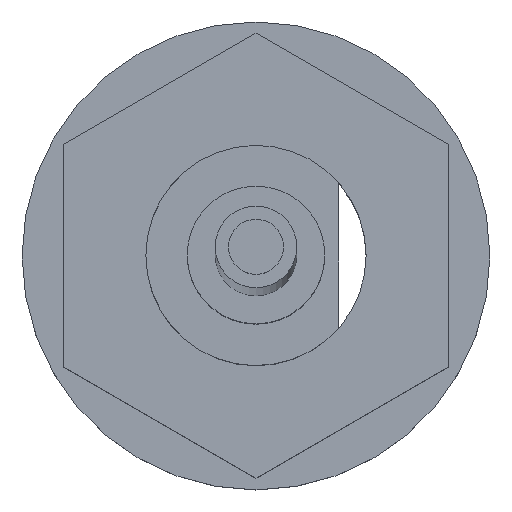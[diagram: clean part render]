
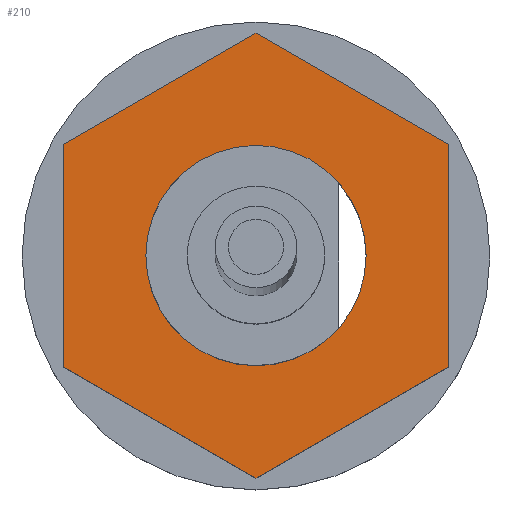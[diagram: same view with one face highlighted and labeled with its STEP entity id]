
A CAD part, top view. The second image highlights one B-rep face of the part: STEP entity #210.
In plain terms, the highlighted planar face has unit normal (0, 0, 1) as drawn and (-1, 0, 0) by its records, which use the part's own axes.
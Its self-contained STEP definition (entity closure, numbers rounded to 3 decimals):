
#199 = EDGE_CURVE ( 'NONE', #200, #201, #673, .T. ) ;
#200 = VERTEX_POINT ( 'NONE', #669 ) ;
#201 = VERTEX_POINT ( 'NONE', #668 ) ;
#210 = ADVANCED_FACE ( 'NONE', ( #716, #715 ), #714, .T. ) ;
#211 = EDGE_LOOP ( 'NONE', ( #212, #307, #293, #295, #218, #221 ) ) ;
#212 = ORIENTED_EDGE ( 'NONE', *, *, #213, .T. ) ;
#213 = EDGE_CURVE ( 'NONE', #214, #215, #709, .T. ) ;
#214 = VERTEX_POINT ( 'NONE', #705 ) ;
#215 = VERTEX_POINT ( 'NONE', #704 ) ;
#217 = EDGE_CURVE ( 'NONE', #310, #308, #703, .T. ) ;
#218 = ORIENTED_EDGE ( 'NONE', *, *, #219, .T. ) ;
#219 = EDGE_CURVE ( 'NONE', #308, #220, #699, .T. ) ;
#220 = VERTEX_POINT ( 'NONE', #695 ) ;
#221 = ORIENTED_EDGE ( 'NONE', *, *, #222, .T. ) ;
#222 = EDGE_CURVE ( 'NONE', #220, #214, #694, .T. ) ;
#223 = EDGE_LOOP ( 'NONE', ( #224, #225 ) ) ;
#224 = ORIENTED_EDGE ( 'NONE', *, *, #199, .F. ) ;
#225 = ORIENTED_EDGE ( 'NONE', *, *, #226, .F. ) ;
#226 = EDGE_CURVE ( 'NONE', #201, #200, #761, .T. ) ;
#293 = ORIENTED_EDGE ( 'NONE', *, *, #294, .T. ) ;
#294 = EDGE_CURVE ( 'NONE', #309, #310, #850, .T. ) ;
#295 = ORIENTED_EDGE ( 'NONE', *, *, #217, .T. ) ;
#307 = ORIENTED_EDGE ( 'NONE', *, *, #319, .T. ) ;
#308 = VERTEX_POINT ( 'NONE', #840 ) ;
#309 = VERTEX_POINT ( 'NONE', #839 ) ;
#310 = VERTEX_POINT ( 'NONE', #838 ) ;
#319 = EDGE_CURVE ( 'NONE', #215, #309, #888, .T. ) ;
#668 = CARTESIAN_POINT ( 'NONE',  ( 1.8, -2., 0. ) ) ;
#669 = CARTESIAN_POINT ( 'NONE',  ( 1.8, 2., 0. ) ) ;
#670 = DIRECTION ( 'NONE',  ( 0., -1., 0. ) ) ;
#671 = DIRECTION ( 'NONE',  ( -1., 0., 0. ) ) ;
#672 = AXIS2_PLACEMENT_3D ( 'NONE', #678, #671, #670 ) ;
#673 = CIRCLE ( 'NONE', #672, 2. ) ;
#678 = CARTESIAN_POINT ( 'NONE',  ( 1.8, 0., 0. ) ) ;
#694 = LINE ( 'NONE', #764, #763 ) ;
#695 = CARTESIAN_POINT ( 'NONE',  ( 1.8, -2.021, 3.5 ) ) ;
#696 = DIRECTION ( 'NONE',  ( 0., 0.5, 0.866 ) ) ;
#697 = VECTOR ( 'NONE', #696, 1000. ) ;
#698 = CARTESIAN_POINT ( 'NONE',  ( 1.8, -4.041, 0. ) ) ;
#699 = LINE ( 'NONE', #698, #697 ) ;
#700 = DIRECTION ( 'NONE',  ( 0., -0.5, 0.866 ) ) ;
#701 = VECTOR ( 'NONE', #700, 1000. ) ;
#702 = CARTESIAN_POINT ( 'NONE',  ( 1.8, -2.021, -3.5 ) ) ;
#703 = LINE ( 'NONE', #702, #701 ) ;
#704 = CARTESIAN_POINT ( 'NONE',  ( 1.8, 4.041, 0. ) ) ;
#705 = CARTESIAN_POINT ( 'NONE',  ( 1.8, 2.021, 3.5 ) ) ;
#706 = DIRECTION ( 'NONE',  ( 0., 0.5, -0.866 ) ) ;
#707 = VECTOR ( 'NONE', #706, 1000. ) ;
#708 = CARTESIAN_POINT ( 'NONE',  ( 1.8, 2.021, 3.5 ) ) ;
#709 = LINE ( 'NONE', #708, #707 ) ;
#710 = DIRECTION ( 'NONE',  ( 0., -1., 0. ) ) ;
#711 = DIRECTION ( 'NONE',  ( -1., 0., 0. ) ) ;
#712 = CARTESIAN_POINT ( 'NONE',  ( 1.8, 4.041, 0. ) ) ;
#713 = AXIS2_PLACEMENT_3D ( 'NONE', #712, #711, #710 ) ;
#714 = PLANE ( 'NONE',  #713 ) ;
#715 = FACE_BOUND ( 'NONE', #223, .T. ) ;
#716 = FACE_OUTER_BOUND ( 'NONE', #211, .T. ) ;
#755 = DIRECTION ( 'NONE',  ( 0., -1., 0. ) ) ;
#757 = DIRECTION ( 'NONE',  ( -1., 0., 0. ) ) ;
#759 = CARTESIAN_POINT ( 'NONE',  ( 1.8, 0., 0. ) ) ;
#760 = AXIS2_PLACEMENT_3D ( 'NONE', #759, #757, #755 ) ;
#761 = CIRCLE ( 'NONE', #760, 2. ) ;
#762 = DIRECTION ( 'NONE',  ( 0., 1., 0. ) ) ;
#763 = VECTOR ( 'NONE', #762, 1000. ) ;
#764 = CARTESIAN_POINT ( 'NONE',  ( 1.8, -2.021, 3.5 ) ) ;
#838 = CARTESIAN_POINT ( 'NONE',  ( 1.8, -2.021, -3.5 ) ) ;
#839 = CARTESIAN_POINT ( 'NONE',  ( 1.8, 2.021, -3.5 ) ) ;
#840 = CARTESIAN_POINT ( 'NONE',  ( 1.8, -4.041, 0. ) ) ;
#847 = DIRECTION ( 'NONE',  ( 0., -1., 0. ) ) ;
#848 = VECTOR ( 'NONE', #847, 1000. ) ;
#849 = CARTESIAN_POINT ( 'NONE',  ( 1.8, 2.021, -3.5 ) ) ;
#850 = LINE ( 'NONE', #849, #848 ) ;
#885 = DIRECTION ( 'NONE',  ( 0., -0.5, -0.866 ) ) ;
#886 = VECTOR ( 'NONE', #885, 1000. ) ;
#887 = CARTESIAN_POINT ( 'NONE',  ( 1.8, 4.041, 0. ) ) ;
#888 = LINE ( 'NONE', #887, #886 ) ;
